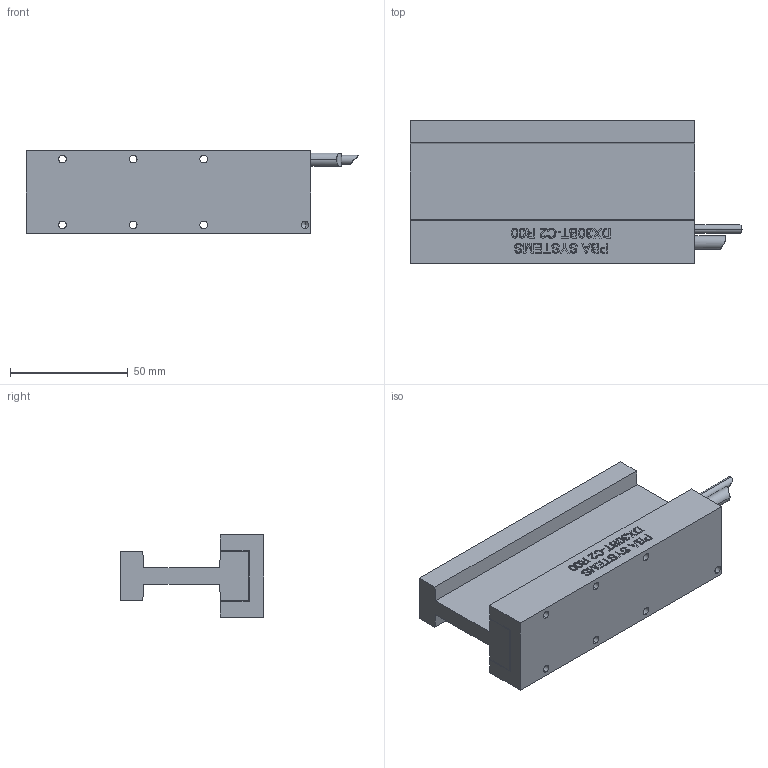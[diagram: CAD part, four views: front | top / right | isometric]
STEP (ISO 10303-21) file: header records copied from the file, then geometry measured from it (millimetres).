
FILE_DESCRIPTION (( 'STEP AP203' ), '1' );
FILE_NAME ('DX30BT-C2-000.STEP', '2015-05-28T01:56:47', ( 'PBAsystems' ), ( '' ), 'SwSTEP 2.0', 'SolidWorks 2013', '' );
FILE_SCHEMA (( 'CONFIG_CONTROL_DESIGN' ));
Length unit declared in the file: millimetre
Products named in the file (5): CBL_MTR_HALL_SS_5C_SA (#2935-1); DX30BT-C2-000; DX30BT-C2-001_CUSTOMER ; DX30B-CX-002_C2; CBL_MTR_PWR_SS_7C2C_SA (#2936-1)
Assembly tree (4 placements, depth 2):
  DX30BT-C2-000
    DX30BT-C2-001_CUSTOMER 
    DX30B-CX-002_C2
    CBL_MTR_PWR_SS_7C2C_SA (#2936-1)
    CBL_MTR_HALL_SS_5C_SA (#2935-1)
Bounding box: 141 x 60.8 x 35 mm (x, y, z)
Volume: 128757.1 mm3; surface area: 41444.7 mm2
Topology: 4 solids, 4 shells, 700 faces, 1873 edges, 1247 vertices
Faces by surface type: plane 365, bspline 312, cylinder 21, cone 2
Entity records: 38724 total; most frequent: CARTESIAN_POINT 22801, ORIENTED_EDGE 3742, DIRECTION 2075, EDGE_CURVE 1871, VERTEX_POINT 1247, LINE 1209, VECTOR 1209, EDGE_LOOP 780
